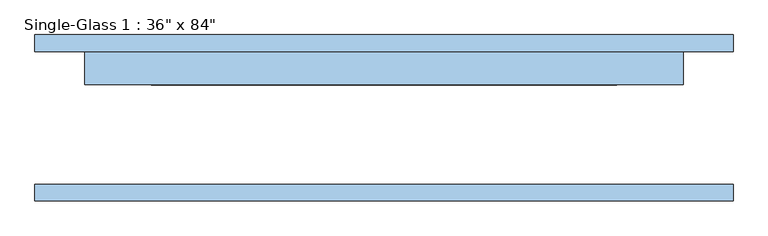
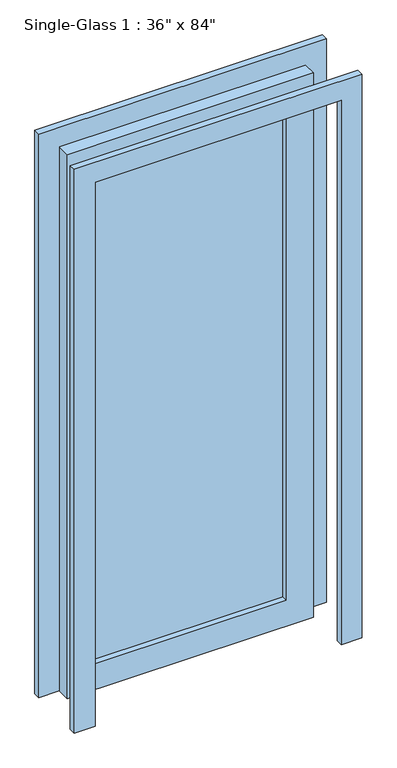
"""IFC4 building model written with IfcOpenShell, lengths in millimetres: window geometry."""

from ifc_helpers import new_model, si_unit, frame, origin, place, context, project, spatial, polyline, outline, extrude, source, transform, mapped, element, save


def window_99bce362(model_context):
    return source(origin(), model_context, "Body", "SweptSolid", [
        extrude(outline(polyline([(2133.6, 457.2), (0.0, 457.2), (0.0, 533.4), (2209.8, 533.4), (2209.8, -533.4), (0.0, -533.4), (0.0, -457.2), (2133.6, -457.2), (2133.6, 457.2)])), frame((0.0, -127.0, 0.0), z_axis=(0.0, 1.0, 0.0), x_axis=(0.0, 0.0, 1.0)), (0.0, 0.0, 1.0), 25.4),
        extrude(outline(polyline([(2133.6, 457.2), (0.0, 457.2), (0.0, 533.4), (2209.8, 533.4), (2209.8, -533.4), (0.0, -533.4), (0.0, -457.2), (2133.6, -457.2), (2133.6, 457.2)])), frame((0.0, 101.6, 0.0), z_axis=(0.0, 1.0, 0.0), x_axis=(0.0, 0.0, 1.0)), (0.0, 0.0, 1.0), 25.4),
        extrude(outline(polyline([(355.6, 73.025), (-355.6, 73.025), (-355.6, 79.375), (355.6, 79.375), (355.6, 73.025)])), frame((0.0, 0.0, 101.6), z_axis=(0.0, 0.0, 1.0), x_axis=(1.0, 0.0, 0.0)), (0.0, 0.0, 1.0), 1930.4),
        extrude(outline(polyline([(2133.6, 457.2), (2133.6, -457.2), (0.0, -457.2), (0.0, 457.2), (2133.6, 457.2)]), holes=[polyline([(2032.0, -355.6), (2032.0, 355.6), (101.6, 355.6), (101.6, -355.6), (2032.0, -355.6)])]), frame((0.0, 50.8, 0.0), z_axis=(0.0, 1.0, 0.0), x_axis=(0.0, 0.0, 1.0)), (0.0, 0.0, 1.0), 50.8),
    ])


if __name__ == "__main__":
    model = new_model("IFC4")
    model_context = context("Model", 3, world=origin())
    ifc_project = project(units=[si_unit("LENGTHUNIT", "METRE", prefix="MILLI")], contexts=[model_context])
    site = spatial("IfcSite", under=ifc_project)
    building = spatial("IfcBuilding", under=site)
    placement = place(None, origin())
    window_shape = window_99bce362(model_context)
    element("IfcWindow", 1, ObjectType="Single-Glass 1 : 36\" x 84\"", at=placement, inside=building, context=model_context, shape_type="MappedRepresentation", body=[
        mapped(window_shape, transform((0.0, 0.0, 0.0), x_axis=(1.0, 0.0, 0.0), y_axis=(0.0, 1.0, 0.0), z_axis=(0.0, 0.0, 1.0))),
    ])
    save(model, "model.ifc")
